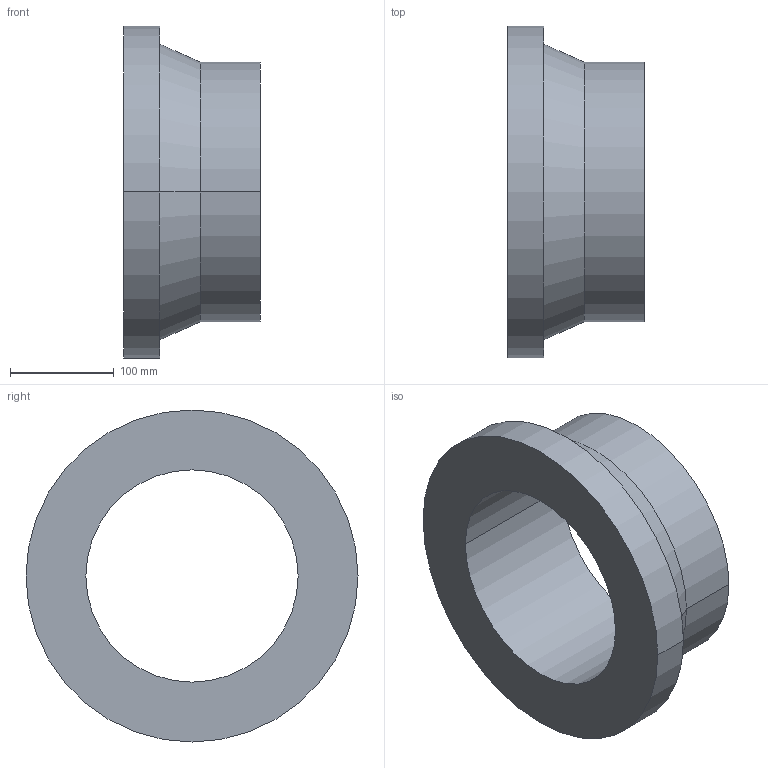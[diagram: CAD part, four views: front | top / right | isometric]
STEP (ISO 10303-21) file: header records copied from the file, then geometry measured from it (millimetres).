
FILE_DESCRIPTION( ( '' ), '1' );
FILE_NAME( 'R:/Engineering/Parts CD files/STP/Industrial Chem Proline/Stub End/581135100.stp', '2012-12-28T18:13:04', ( '' ), ( '' ), ' ', ' ', ' ' );
FILE_SCHEMA( ( 'CONFIG_CONTROL_DESIGN' ) );
Length unit declared in the file: millimetre
Products named in the file (1): 1
Bounding box: 132 x 320 x 320 mm (x, y, z)
Volume: 3517014.5 mm3; surface area: 281895.2 mm2
Topology: 1 solids, 1 shells, 11 faces, 22 edges, 14 vertices
Faces by surface type: cylinder 6, plane 3, cone 2
Entity records: 342 total; most frequent: DIRECTION 60, CARTESIAN_POINT 48, ORIENTED_EDGE 44, AXIS2_PLACEMENT_3D 26, EDGE_CURVE 22, EDGE_LOOP 14, VERTEX_POINT 14, CIRCLE 14
